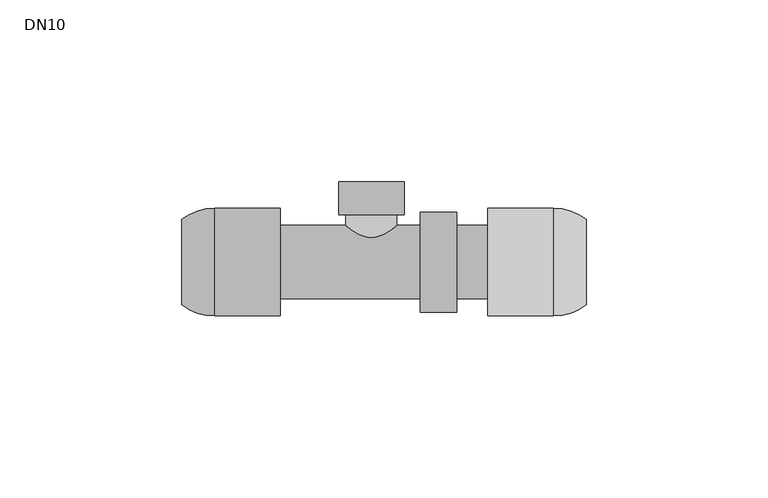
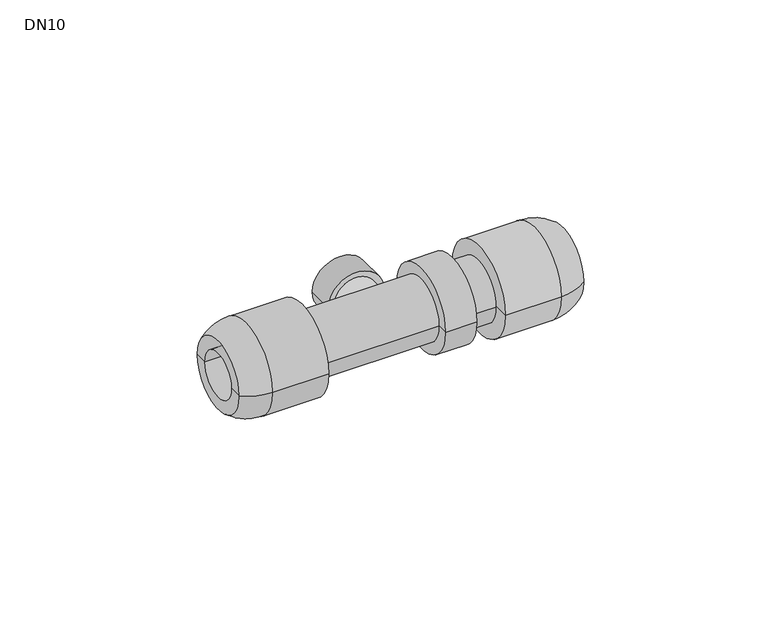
"""IFC4 building model written with IfcOpenShell, lengths in millimetres: valve geometry, Wavin_PipeAccessory_Hep2oDoubleCheckValve : DN10."""

from ifc_helpers import new_model, si_unit, point, frame, origin, origin_2d, place, context, project, spatial, polyline, circle_curve, ellipse_curve, trimmed, segment, composite_curve, outline, extrude, source, transform, mapped, element, save
from ifc_brep_helpers import plane_surface, cylinder_surface, revolved_surface, advanced_brep


def dn10_fc41e834(model_context):
    return source(origin(), model_context, "Body", "SolidModel", [
        advanced_brep(
        [(32.0, 7.5, 0.0), (32.0, -7.5, 0.0), (59.0, -7.5, 0.0), (59.0, 7.5, 0.0), (32.0, 14.8, 0.0), (32.0, -14.8, 0.0), (50.0, 14.8, 0.0), (50.0, -14.8, 0.0), (59.0, 11.7490425, 0.0), (59.0, -11.7490425, 0.0)],
        [
            (0, 1, circle_curve(frame((32.0, 0.0, 0.0), z_axis=(-1.0, 0.0, 0.0), x_axis=(0.0, -1.0000000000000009, 0.0)), 7.5)),
            (1, 2),
            (2, 3, circle_curve(frame((59.0, 0.0, 0.0), z_axis=(1.0, 0.0, 0.0), x_axis=(0.0, -1.0000000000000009, 0.0)), 7.5)),
            (3, 0),
            (1, 0, circle_curve(frame((32.0, 0.0, 0.0), z_axis=(-1.0, 0.0, 0.0), x_axis=(0.0, -1.0000000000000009, 0.0)), 7.5)),
            (3, 2, circle_curve(frame((59.0, 0.0, 0.0), z_axis=(1.0, 0.0, 0.0), x_axis=(0.0, -1.0000000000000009, 0.0)), 7.5)),
            (4, 5, circle_curve(frame((32.0, 0.0, 0.0), z_axis=(-1.0, 0.0, 0.0), x_axis=(0.0, -1.0000000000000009, 0.0)), 14.8)),
            (5, 1),
            (0, 4),
            (5, 4, circle_curve(frame((32.0, 0.0, 0.0), z_axis=(-1.0, 0.0, 0.0), x_axis=(0.0, -1.0000000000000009, 0.0)), 14.8)),
            (6, 7, circle_curve(frame((50.0, 0.0, 0.0), z_axis=(-1.0, 0.0, 0.0), x_axis=(0.0, -1.0000000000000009, 0.0)), 14.8)),
            (7, 5),
            (4, 6),
            (7, 6, circle_curve(frame((50.0, 0.0, 0.0), z_axis=(-1.0, 0.0, 0.0), x_axis=(0.0, -1.0000000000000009, 0.0)), 14.8)),
            (8, 9, circle_curve(frame((59.0, 0.0, 0.0), z_axis=(-1.0, 0.0, 0.0), x_axis=(0.0, -1.0000000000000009, 0.0)), 11.7490425)),
            (9, 7, circle_curve(frame((50.0, 0.0, 0.0), z_axis=(0.0, 0.0, -1.0000000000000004), x_axis=(-1.0000000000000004, 0.0, 0.0)), 14.8)),
            (6, 8, circle_curve(frame((50.0, 0.0, 0.0), z_axis=(0.0, 0.0, -1.0000000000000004), x_axis=(-1.0000000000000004, 0.0, 0.0)), 14.8)),
            (9, 8, circle_curve(frame((59.0, 0.0, 0.0), z_axis=(-1.0, 0.0, 0.0), x_axis=(0.0, -1.0000000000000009, 0.0)), 11.7490425)),
            (2, 9),
            (8, 3),
        ],
        [
            revolved_surface(polyline([(59.00000000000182, -7.500000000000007, 0.0), (32.00000000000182, -7.500000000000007, 0.0)]), (-1968.0, 0.0, 0.0), (1.0000000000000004, 0.0, 0.0)),
            plane_surface(frame((32.0, 0.0, 0.0), z_axis=(-1.0, 0.0, 0.0), x_axis=(0.0, -1.0, 0.0))),
            cylinder_surface(frame((-1968.0, 0.0, 0.0), z_axis=(1.0000000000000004, 0.0, 0.0), x_axis=(0.0, -1.0000000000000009, 0.0)), 14.8),
            revolved_surface(trimmed(ellipse_curve(frame((50.0, 0.0, 0.0), z_axis=(0.0, 0.0, 1.0000000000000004), x_axis=(-1.0000000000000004, 0.0, 0.0)), 14.8, 14.8), [point((50.0, -14.8, 0.0))], [point((59.0, -11.7490425, 0.0))], True, "CARTESIAN"), (-1968.0, 0.0, 0.0), (1.0000000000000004, 0.0, 0.0)),
            plane_surface(frame((59.0, 0.0, 0.0), z_axis=(1.0, 0.0, 0.0), x_axis=(0.0, -1.0, 0.0))),
        ],
        [
            (0, [[1, 2, 3, 4]]),
            (0, [[5, -4, 6, -2]]),
            (1, [[7, 8, -1, 9]]),
            (1, [[10, -9, -5, -8]]),
            (2, [[11, 12, -7, 13]]),
            (2, [[14, -13, -10, -12]]),
            (3, [[15, 16, -11, 17]]),
            (3, [[18, -17, -14, -16]]),
            (4, [[-3, 19, -15, 20]]),
            (4, [[-6, -20, -18, -19]]),
        ],
    ),
        advanced_brep(
        [(-25.0, -7.5, 0.0), (-25.0, 7.5, 0.0), (-52.0, 7.5, 0.0), (-52.0, -7.5, 0.0), (-25.0, -14.8, 0.0), (-25.0, 14.8, 0.0), (-43.0, -14.8, 0.0), (-43.0, 14.8, 0.0), (-52.0, -11.7490425, 0.0), (-52.0, 11.7490425, 0.0)],
        [
            (0, 1, circle_curve(frame((-25.0, 0.0, 0.0), z_axis=(1.0, 0.0, 0.0), x_axis=(0.0, 1.0, 0.0)), 7.5)),
            (1, 2),
            (2, 3, circle_curve(frame((-52.0, 0.0, 0.0), z_axis=(-1.0, 0.0, 0.0), x_axis=(0.0, 1.0, 0.0)), 7.5)),
            (3, 0),
            (1, 0, circle_curve(frame((-25.0, 0.0, 0.0), z_axis=(1.0, 0.0, 0.0), x_axis=(0.0, 1.0, 0.0)), 7.5)),
            (3, 2, circle_curve(frame((-52.0, 0.0, 0.0), z_axis=(-1.0, 0.0, 0.0), x_axis=(0.0, 1.0, 0.0)), 7.5)),
            (4, 5, circle_curve(frame((-25.0, 0.0, 0.0), z_axis=(1.0, 0.0, 0.0), x_axis=(0.0, 1.0, 0.0)), 14.8)),
            (5, 1),
            (0, 4),
            (5, 4, circle_curve(frame((-25.0, 0.0, 0.0), z_axis=(1.0, 0.0, 0.0), x_axis=(0.0, 1.0, 0.0)), 14.8)),
            (6, 7, circle_curve(frame((-43.0, 0.0, 0.0), z_axis=(1.0, 0.0, 0.0), x_axis=(0.0, 1.0, 0.0)), 14.8)),
            (7, 5),
            (4, 6),
            (7, 6, circle_curve(frame((-43.0, 0.0, 0.0), z_axis=(1.0, 0.0, 0.0), x_axis=(0.0, 1.0, 0.0)), 14.8)),
            (8, 9, circle_curve(frame((-52.0, 0.0, 0.0), z_axis=(1.0, 0.0, 0.0), x_axis=(0.0, 1.0, 0.0)), 11.7490425)),
            (9, 7, circle_curve(frame((-43.0, 0.0, 0.0), z_axis=(0.0, 0.0, -1.0), x_axis=(1.0, 0.0, 0.0)), 14.8)),
            (6, 8, circle_curve(frame((-43.0, 0.0, 0.0), z_axis=(0.0, 0.0, -1.0), x_axis=(1.0, 0.0, 0.0)), 14.8)),
            (9, 8, circle_curve(frame((-52.0, 0.0, 0.0), z_axis=(1.0, 0.0, 0.0), x_axis=(0.0, 1.0, 0.0)), 11.7490425)),
            (2, 9),
            (8, 3),
        ],
        [
            revolved_surface(polyline([(-52.0, 7.5, 0.0), (-25.0, 7.5, 0.0)]), (1975.0, 0.0, 0.0), (-1.0, 0.0, 0.0)),
            plane_surface(frame((-25.0, 0.0, 0.0), z_axis=(1.0, 0.0, 0.0), x_axis=(0.0, 1.0, 0.0))),
            cylinder_surface(frame((1975.0, 0.0, 0.0), z_axis=(-1.0, 0.0, 0.0), x_axis=(0.0, 1.0, 0.0)), 14.8),
            revolved_surface(trimmed(ellipse_curve(frame((-43.0, 0.0, 0.0), z_axis=(0.0, 0.0, 1.0), x_axis=(1.0, 0.0, 0.0)), 14.8, 14.8), [point((-43.0, 14.8, 0.0))], [point((-52.0, 11.7490425, 0.0))], True, "CARTESIAN"), (1975.0, 0.0, 0.0), (-1.0, 0.0, 0.0)),
            plane_surface(frame((-52.0, 0.0, 0.0), z_axis=(-1.0, 0.0, 0.0), x_axis=(0.0, 1.0, 0.0))),
        ],
        [
            (0, [[1, 2, 3, 4]]),
            (0, [[5, -4, 6, -2]]),
            (1, [[7, 8, -1, 9]]),
            (1, [[10, -9, -5, -8]]),
            (2, [[11, 12, -7, 13]]),
            (2, [[14, -13, -10, -12]]),
            (3, [[15, 16, -11, 17]]),
            (3, [[18, -17, -14, -16]]),
            (4, [[-3, 19, -15, 20]]),
            (4, [[-6, -20, -18, -19]]),
        ],
    ),
        extrude(outline(composite_curve([segment(trimmed(circle_curve(origin_2d(), 7.0), [point((0.0, -7.0))], [point((0.0, 7.0))], False, "CARTESIAN"), True, "CONTINUOUS"), segment(trimmed(circle_curve(origin_2d(), 7.0), [point((0.0, 7.0))], [point((0.0, -7.0))], False, "CARTESIAN"), True, "CONTINUOUS")], self_intersect=False)), frame((0.0, 0.0, 0.0), z_axis=(0.0, 1.0, 0.0), x_axis=(0.0, 0.0, 1.0)), (0.0, 0.0, 1.0), 22.0),
        extrude(outline(composite_curve([segment(trimmed(circle_curve(origin_2d(), 9.0), [point((0.0, -9.0))], [point((0.0, 9.0))], False, "CARTESIAN"), True, "CONTINUOUS"), segment(trimmed(circle_curve(origin_2d(), 9.0), [point((0.0, 9.0))], [point((0.0, -9.0))], False, "CARTESIAN"), True, "CONTINUOUS")], self_intersect=False)), frame((0.0, 13.0, 0.0), z_axis=(0.0, 1.0, 0.0), x_axis=(0.0, 0.0, 1.0)), (0.0, 0.0, 1.0), 9.0),
        advanced_brep(
        [(-25.0, 0.0, 0.0), (-25.0, 10.1, 0.0), (-25.0, -10.1, 0.0), (32.0, -10.1, 0.0), (32.0, 10.1, 0.0), (32.0, 0.0, 0.0), (23.4740552, -10.1, 0.0), (23.4740552, 10.1, 0.0), (23.4740552, -13.7233243, 0.0), (23.4740552, 13.7233243, 0.0), (13.4740552, -13.7233243, 0.0), (13.4740552, 13.7233243, 0.0), (13.4740552, -10.1, 0.0), (13.4740552, 10.1, 0.0)],
        [
            (0, 1),
            (1, 2, circle_curve(frame((-25.0, 0.0, 0.0), z_axis=(-1.0, 0.0, 0.0), x_axis=(0.0, 1.0, 0.0)), 10.1)),
            (2, 0),
            (2, 1, circle_curve(frame((-25.0, 0.0, 0.0), z_axis=(-1.0, 0.0, 0.0), x_axis=(0.0, 1.0, 0.0)), 10.1)),
            (3, 4, circle_curve(frame((32.0, 0.0, 0.0), z_axis=(1.0, 0.0, 0.0), x_axis=(0.0, 1.0, 0.0)), 10.1)),
            (4, 5),
            (5, 3),
            (4, 3, circle_curve(frame((32.0, 0.0, 0.0), z_axis=(1.0, 0.0, 0.0), x_axis=(0.0, 1.0, 0.0)), 10.1)),
            (6, 7, circle_curve(frame((23.4740552, 0.0, 0.0), z_axis=(1.0, 0.0, 0.0), x_axis=(0.0, 1.0, 0.0)), 10.1)),
            (7, 4),
            (3, 6),
            (7, 6, circle_curve(frame((23.4740552, 0.0, 0.0), z_axis=(1.0, 0.0, 0.0), x_axis=(0.0, 1.0, 0.0)), 10.1)),
            (8, 9, circle_curve(frame((23.4740552, 0.0, 0.0), z_axis=(1.0, 0.0, 0.0), x_axis=(0.0, 1.0, 0.0)), 13.7233243)),
            (9, 7),
            (6, 8),
            (9, 8, circle_curve(frame((23.4740552, 0.0, 0.0), z_axis=(1.0, 0.0, 0.0), x_axis=(0.0, 1.0, 0.0)), 13.7233243)),
            (10, 11, circle_curve(frame((13.4740552, 0.0, 0.0), z_axis=(1.0, 0.0, 0.0), x_axis=(0.0, 1.0, 0.0)), 13.7233243)),
            (11, 9),
            (8, 10),
            (11, 10, circle_curve(frame((13.4740552, 0.0, 0.0), z_axis=(1.0, 0.0, 0.0), x_axis=(0.0, 1.0, 0.0)), 13.7233243)),
            (12, 13, circle_curve(frame((13.4740552, 0.0, 0.0), z_axis=(1.0, 0.0, 0.0), x_axis=(0.0, 1.0, 0.0)), 10.1)),
            (13, 11),
            (10, 12),
            (13, 12, circle_curve(frame((13.4740552, 0.0, 0.0), z_axis=(1.0, 0.0, 0.0), x_axis=(0.0, 1.0, 0.0)), 10.1)),
            (1, 13),
            (12, 2),
        ],
        [
            plane_surface(frame((-25.0, 0.0, 0.0), z_axis=(-1.0, 0.0, 0.0), x_axis=(0.0, 1.0, 0.0))),
            plane_surface(frame((32.0, 0.0, 0.0), z_axis=(1.0, 0.0, 0.0), x_axis=(0.0, 1.0, 0.0))),
            cylinder_surface(frame((-25.0, 0.0, 0.0), z_axis=(-1.0, 0.0, 0.0), x_axis=(0.0, 1.0, 0.0)), 10.1),
            plane_surface(frame((23.4740552, 0.0, 0.0), z_axis=(1.0, 0.0, 0.0), x_axis=(0.0, 1.0, 0.0))),
            cylinder_surface(frame((-25.0, 0.0, 0.0), z_axis=(-1.0, 0.0, 0.0), x_axis=(0.0, 1.0, 0.0)), 13.7233243),
            plane_surface(frame((13.4740552, 0.0, 0.0), z_axis=(-1.0, 0.0, 0.0), x_axis=(0.0, 1.0, 0.0))),
        ],
        [
            (0, [[1, 2, 3]]),
            (0, [[-3, 4, -1]]),
            (1, [[5, 6, 7]]),
            (1, [[8, -7, -6]]),
            (2, [[9, 10, -5, 11]]),
            (2, [[12, -11, -8, -10]]),
            (3, [[13, 14, -9, 15]]),
            (3, [[16, -15, -12, -14]]),
            (4, [[17, 18, -13, 19]]),
            (4, [[20, -19, -16, -18]]),
            (5, [[21, 22, -17, 23]]),
            (5, [[24, -23, -20, -22]]),
            (2, [[-2, 25, -21, 26]]),
            (2, [[-4, -26, -24, -25]]),
        ],
    ),
    ])


if __name__ == "__main__":
    model = new_model("IFC4")
    model_context = context("Model", 3, world=origin())
    ifc_project = project(units=[si_unit("LENGTHUNIT", "METRE", prefix="MILLI")], contexts=[model_context])
    site = spatial("IfcSite", under=ifc_project)
    building = spatial("IfcBuilding", under=site)
    placement = place(None, origin())
    dn10_shape = dn10_fc41e834(model_context)
    element("IfcValve", 1, ObjectType="Wavin_PipeAccessory_Hep2oDoubleCheckValve : DN10", at=placement, inside=building, context=model_context, shape_type="MappedRepresentation", body=[
        mapped(dn10_shape, transform((0.0, 0.0, 0.0), x_axis=(1.0, 0.0, 0.0), y_axis=(0.0, 1.0, 0.0), z_axis=(0.0, 0.0, 1.0))),
    ])
    save(model, "model.ifc")
